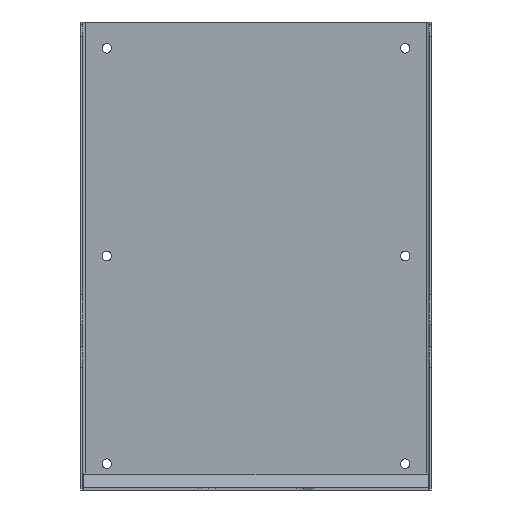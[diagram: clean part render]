
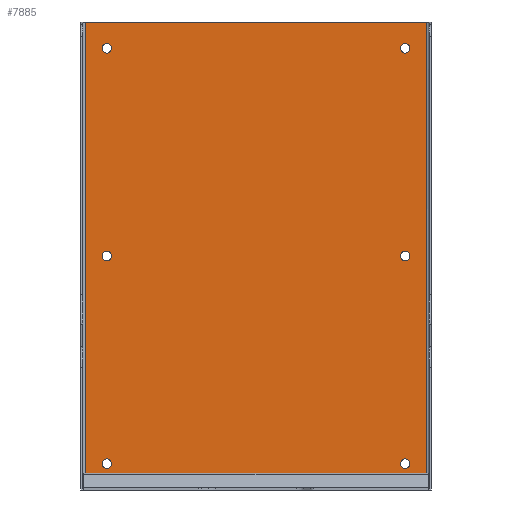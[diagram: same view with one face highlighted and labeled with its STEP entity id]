
A CAD part, front view. The second image highlights one B-rep face of the part: STEP entity #7885.
In plain terms, the highlighted planar face has unit normal (0, -1, 0).
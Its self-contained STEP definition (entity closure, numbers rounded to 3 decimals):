
#264 = DIRECTION ( 'NONE',  ( 0., 0., 1. ) ) ;
#399 = VECTOR ( 'NONE', #1191, 1000. ) ;
#405 = DIRECTION ( 'NONE',  ( 0., -1., 0. ) ) ;
#454 = VECTOR ( 'NONE', #7458, 1000. ) ;
#557 = VECTOR ( 'NONE', #3102, 1000. ) ;
#578 = PLANE ( 'NONE',  #8474 ) ;
#635 = EDGE_CURVE ( 'NONE', #1040, #5841, #5102, .T. ) ;
#690 = CIRCLE ( 'NONE', #8142, 3.25 ) ;
#695 = EDGE_LOOP ( 'NONE', ( #7068 ) ) ;
#941 = CARTESIAN_POINT ( 'NONE',  ( 116.8, -20.6, 320. ) ) ;
#1018 = EDGE_CURVE ( 'NONE', #3093, #3093, #1182, .T. ) ;
#1034 = CARTESIAN_POINT ( 'NONE',  ( 102., -20.6, 156.75 ) ) ;
#1040 = VERTEX_POINT ( 'NONE', #1775 ) ;
#1102 = EDGE_CURVE ( 'NONE', #5841, #2190, #8683, .T. ) ;
#1163 = DIRECTION ( 'NONE',  ( 0., 0., -1. ) ) ;
#1182 = CIRCLE ( 'NONE', #1617, 3.25 ) ;
#1191 = DIRECTION ( 'NONE',  ( -1., 0., 0. ) ) ;
#1254 = FACE_BOUND ( 'NONE', #2049, .T. ) ;
#1361 = EDGE_LOOP ( 'NONE', ( #4575 ) ) ;
#1421 = CARTESIAN_POINT ( 'NONE',  ( 120., -20.6, 0. ) ) ;
#1484 = EDGE_CURVE ( 'NONE', #1040, #8803, #4536, .T. ) ;
#1603 = DIRECTION ( 'NONE',  ( 0., -1., 0. ) ) ;
#1615 = CARTESIAN_POINT ( 'NONE',  ( 116.8, -20.6, 320. ) ) ;
#1617 = AXIS2_PLACEMENT_3D ( 'NONE', #1651, #1603, #1691 ) ;
#1626 = CARTESIAN_POINT ( 'NONE',  ( -102., -20.6, 156.75 ) ) ;
#1647 = ORIENTED_EDGE ( 'NONE', *, *, #7355, .F. ) ;
#1651 = CARTESIAN_POINT ( 'NONE',  ( -102., -20.6, 160. ) ) ;
#1691 = DIRECTION ( 'NONE',  ( 0., 0., -1. ) ) ;
#1694 = CARTESIAN_POINT ( 'NONE',  ( 120., -20.6, 3.5 ) ) ;
#1756 = VERTEX_POINT ( 'NONE', #3803 ) ;
#1775 = CARTESIAN_POINT ( 'NONE',  ( 116.8, -20.6, 3.5 ) ) ;
#1793 = FACE_BOUND ( 'NONE', #695, .T. ) ;
#1797 = VERTEX_POINT ( 'NONE', #5703 ) ;
#1838 = CARTESIAN_POINT ( 'NONE',  ( -116.8, -20.6, 3.5 ) ) ;
#1943 = EDGE_CURVE ( 'NONE', #5185, #3134, #6086, .T. ) ;
#1948 = DIRECTION ( 'NONE',  ( 0., -1., 0. ) ) ;
#2034 = DIRECTION ( 'NONE',  ( 0., -1., 0. ) ) ;
#2049 = EDGE_LOOP ( 'NONE', ( #6746 ) ) ;
#2190 = VERTEX_POINT ( 'NONE', #4854 ) ;
#2233 = VECTOR ( 'NONE', #4150, 1000. ) ;
#2360 = CARTESIAN_POINT ( 'NONE',  ( -102., -20.6, 18. ) ) ;
#2451 = DIRECTION ( 'NONE',  ( -1., 0., 0. ) ) ;
#2562 = LINE ( 'NONE', #2643, #454 ) ;
#2643 = CARTESIAN_POINT ( 'NONE',  ( -116.8, -20.6, 0. ) ) ;
#2732 = CARTESIAN_POINT ( 'NONE',  ( 116.5, -20.6, 3.5 ) ) ;
#2760 = EDGE_CURVE ( 'NONE', #8487, #8487, #5266, .T. ) ;
#3093 = VERTEX_POINT ( 'NONE', #1626 ) ;
#3102 = DIRECTION ( 'NONE',  ( -1., 0., 0. ) ) ;
#3134 = VERTEX_POINT ( 'NONE', #3396 ) ;
#3135 = DIRECTION ( 'NONE',  ( 0., 0., -1. ) ) ;
#3139 = VERTEX_POINT ( 'NONE', #7145 ) ;
#3144 = CIRCLE ( 'NONE', #8162, 3.25 ) ;
#3207 = LINE ( 'NONE', #1694, #3632 ) ;
#3263 = FACE_BOUND ( 'NONE', #3963, .T. ) ;
#3359 = ORIENTED_EDGE ( 'NONE', *, *, #1102, .T. ) ;
#3396 = CARTESIAN_POINT ( 'NONE',  ( 116.5, -20.6, 3.2 ) ) ;
#3448 = VERTEX_POINT ( 'NONE', #4732 ) ;
#3578 = AXIS2_PLACEMENT_3D ( 'NONE', #5491, #8232, #6888 ) ;
#3632 = VECTOR ( 'NONE', #2451, 1000. ) ;
#3646 = CARTESIAN_POINT ( 'NONE',  ( 116.5, -20.6, 0. ) ) ;
#3755 = ORIENTED_EDGE ( 'NONE', *, *, #2760, .F. ) ;
#3803 = CARTESIAN_POINT ( 'NONE',  ( 102., -20.6, 298.75 ) ) ;
#3878 = AXIS2_PLACEMENT_3D ( 'NONE', #6545, #405, #3135 ) ;
#3940 = FACE_BOUND ( 'NONE', #4265, .T. ) ;
#3963 = EDGE_LOOP ( 'NONE', ( #6309 ) ) ;
#3980 = FACE_OUTER_BOUND ( 'NONE', #4278, .T. ) ;
#4002 = LINE ( 'NONE', #6745, #7441 ) ;
#4150 = DIRECTION ( 'NONE',  ( 1., 0., 0. ) ) ;
#4251 = EDGE_LOOP ( 'NONE', ( #6909 ) ) ;
#4265 = EDGE_LOOP ( 'NONE', ( #3755 ) ) ;
#4278 = EDGE_LOOP ( 'NONE', ( #8470, #6352, #1647, #7587, #4367, #3359, #4972, #7723 ) ) ;
#4367 = ORIENTED_EDGE ( 'NONE', *, *, #635, .T. ) ;
#4536 = LINE ( 'NONE', #6607, #557 ) ;
#4575 = ORIENTED_EDGE ( 'NONE', *, *, #7793, .F. ) ;
#4732 = CARTESIAN_POINT ( 'NONE',  ( -116.5, -20.6, 3.5 ) ) ;
#4851 = EDGE_CURVE ( 'NONE', #3448, #7879, #3207, .T. ) ;
#4854 = CARTESIAN_POINT ( 'NONE',  ( -116.8, -20.6, 320. ) ) ;
#4972 = ORIENTED_EDGE ( 'NONE', *, *, #7511, .T. ) ;
#5022 = VERTEX_POINT ( 'NONE', #7773 ) ;
#5102 = LINE ( 'NONE', #941, #8684 ) ;
#5149 = CIRCLE ( 'NONE', #3578, 3.25 ) ;
#5185 = VERTEX_POINT ( 'NONE', #6395 ) ;
#5191 = EDGE_CURVE ( 'NONE', #3139, #3139, #5149, .T. ) ;
#5266 = CIRCLE ( 'NONE', #8860, 3.25 ) ;
#5408 = EDGE_CURVE ( 'NONE', #1756, #1756, #3144, .T. ) ;
#5436 = DIRECTION ( 'NONE',  ( 0., 0., -1. ) ) ;
#5457 = EDGE_CURVE ( 'NONE', #5185, #3448, #4002, .T. ) ;
#5491 = CARTESIAN_POINT ( 'NONE',  ( -102., -20.6, 302. ) ) ;
#5703 = CARTESIAN_POINT ( 'NONE',  ( -102., -20.6, 14.75 ) ) ;
#5841 = VERTEX_POINT ( 'NONE', #1615 ) ;
#6086 = LINE ( 'NONE', #8824, #2233 ) ;
#6243 = DIRECTION ( 'NONE',  ( 0., 0., -1. ) ) ;
#6309 = ORIENTED_EDGE ( 'NONE', *, *, #5408, .F. ) ;
#6352 = ORIENTED_EDGE ( 'NONE', *, *, #1943, .T. ) ;
#6395 = CARTESIAN_POINT ( 'NONE',  ( -116.5, -20.6, 3.2 ) ) ;
#6430 = LINE ( 'NONE', #3646, #7903 ) ;
#6545 = CARTESIAN_POINT ( 'NONE',  ( 102., -20.6, 18. ) ) ;
#6607 = CARTESIAN_POINT ( 'NONE',  ( 120., -20.6, 3.5 ) ) ;
#6745 = CARTESIAN_POINT ( 'NONE',  ( -116.5, -20.6, 0. ) ) ;
#6746 = ORIENTED_EDGE ( 'NONE', *, *, #5191, .F. ) ;
#6888 = DIRECTION ( 'NONE',  ( 0., 0., -1. ) ) ;
#6909 = ORIENTED_EDGE ( 'NONE', *, *, #1018, .F. ) ;
#7059 = EDGE_CURVE ( 'NONE', #1797, #1797, #690, .T. ) ;
#7068 = ORIENTED_EDGE ( 'NONE', *, *, #7059, .F. ) ;
#7145 = CARTESIAN_POINT ( 'NONE',  ( -102., -20.6, 298.75 ) ) ;
#7234 = DIRECTION ( 'NONE',  ( 0., 0., -1. ) ) ;
#7314 = FACE_BOUND ( 'NONE', #4251, .T. ) ;
#7355 = EDGE_CURVE ( 'NONE', #8803, #3134, #6430, .T. ) ;
#7441 = VECTOR ( 'NONE', #8800, 1000. ) ;
#7458 = DIRECTION ( 'NONE',  ( 0., 0., -1. ) ) ;
#7511 = EDGE_CURVE ( 'NONE', #2190, #7879, #2562, .T. ) ;
#7587 = ORIENTED_EDGE ( 'NONE', *, *, #1484, .F. ) ;
#7636 = CARTESIAN_POINT ( 'NONE',  ( 102., -20.6, 160. ) ) ;
#7723 = ORIENTED_EDGE ( 'NONE', *, *, #4851, .F. ) ;
#7762 = CIRCLE ( 'NONE', #3878, 3.25 ) ;
#7773 = CARTESIAN_POINT ( 'NONE',  ( 102., -20.6, 14.75 ) ) ;
#7793 = EDGE_CURVE ( 'NONE', #5022, #5022, #7762, .T. ) ;
#7879 = VERTEX_POINT ( 'NONE', #1838 ) ;
#7885 = ADVANCED_FACE ( 'NONE', ( #1254, #7314, #3263, #7941, #1793, #3940, #3980 ), #578, .T. ) ;
#7903 = VECTOR ( 'NONE', #7234, 1000. ) ;
#7941 = FACE_BOUND ( 'NONE', #1361, .T. ) ;
#7968 = CARTESIAN_POINT ( 'NONE',  ( 120., -20.6, 320. ) ) ;
#8093 = DIRECTION ( 'NONE',  ( 0., 0., -1. ) ) ;
#8142 = AXIS2_PLACEMENT_3D ( 'NONE', #2360, #1948, #5436 ) ;
#8162 = AXIS2_PLACEMENT_3D ( 'NONE', #8842, #2034, #8093 ) ;
#8232 = DIRECTION ( 'NONE',  ( 0., -1., 0. ) ) ;
#8306 = DIRECTION ( 'NONE',  ( 0., -1., 0. ) ) ;
#8470 = ORIENTED_EDGE ( 'NONE', *, *, #5457, .F. ) ;
#8474 = AXIS2_PLACEMENT_3D ( 'NONE', #1421, #8701, #1163 ) ;
#8487 = VERTEX_POINT ( 'NONE', #1034 ) ;
#8683 = LINE ( 'NONE', #7968, #399 ) ;
#8684 = VECTOR ( 'NONE', #264, 1000. ) ;
#8701 = DIRECTION ( 'NONE',  ( 0., -1., 0. ) ) ;
#8800 = DIRECTION ( 'NONE',  ( 0., 0., 1. ) ) ;
#8803 = VERTEX_POINT ( 'NONE', #2732 ) ;
#8824 = CARTESIAN_POINT ( 'NONE',  ( 116.5, -20.6, 3.2 ) ) ;
#8842 = CARTESIAN_POINT ( 'NONE',  ( 102., -20.6, 302. ) ) ;
#8860 = AXIS2_PLACEMENT_3D ( 'NONE', #7636, #8306, #6243 ) ;
